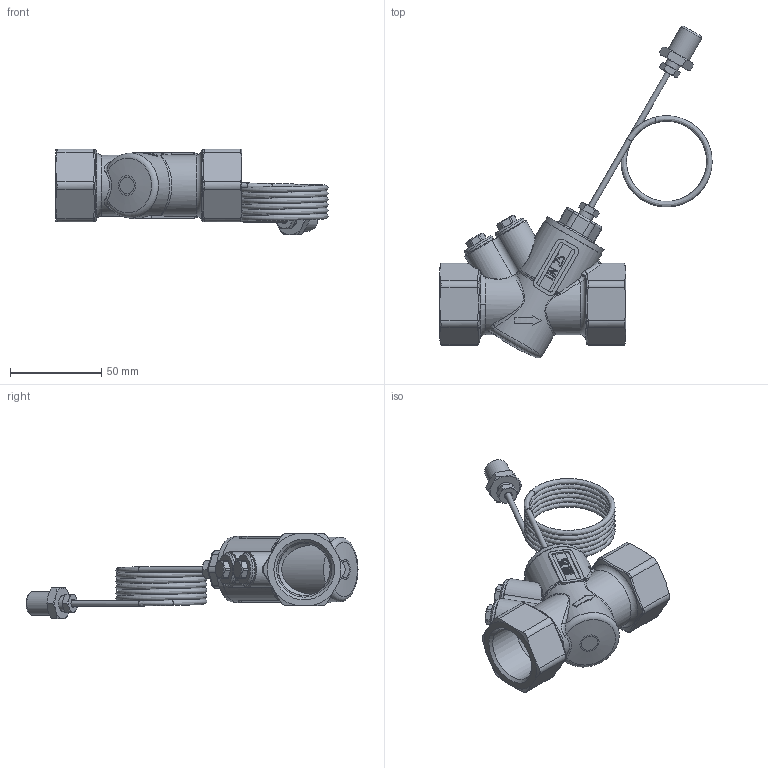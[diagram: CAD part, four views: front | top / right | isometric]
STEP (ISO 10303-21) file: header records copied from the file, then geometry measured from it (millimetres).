
FILE_DESCRIPTION(('STEP AP242'), '1');
FILE_NAME('VT.044.G.0620', '', ('UNSPECIFIED'), ('UNSPECIFIED'), 'C3D Converter', 'C3D Toolkit', '');
FILE_SCHEMA(('AP242_MANAGED_MODEL_BASED_3D_ENGINEERING_MIM_LF { 1 0 10303 442 1 1 4 }'));
Length unit declared in the file: millimetre
Products named in the file (1): ВР.493612.022.000 СБ
Bounding box: 149.43 x 182.34 x 47.1 mm (x, y, z)
Volume: 131065.9 mm3; surface area: 46367.2 mm2
Topology: 3 solids, 6 shells, 505 faces, 1238 edges, 773 vertices
Faces by surface type: plane 152, cylinder 112, bspline 77, cone 73, extrusion 65, torus 26
Full cylindrical faces by diameter (mm): 1.2 x2, 3 x3, 3.1 x2, 3.5 x2, 4.4 x2, 6 x1, 6.5 x2, 6.647 x1, 8 x5, 11.445 x2, 13.157 x3, 14 x2, 16.2 x2, 18 x2, 28.5 x2, 30.292 x2, 35.9 x1, 36.5 x1
Entity records: 30393 total; most frequent: CARTESIAN_POINT 19952, ORIENTED_EDGE 2314, DIRECTION 1711, EDGE_CURVE 1157, VERTEX_POINT 769, AXIS2_PLACEMENT_3D 640, EDGE_LOOP 616, B_SPLINE_CURVE_WITH_KNOTS 542
